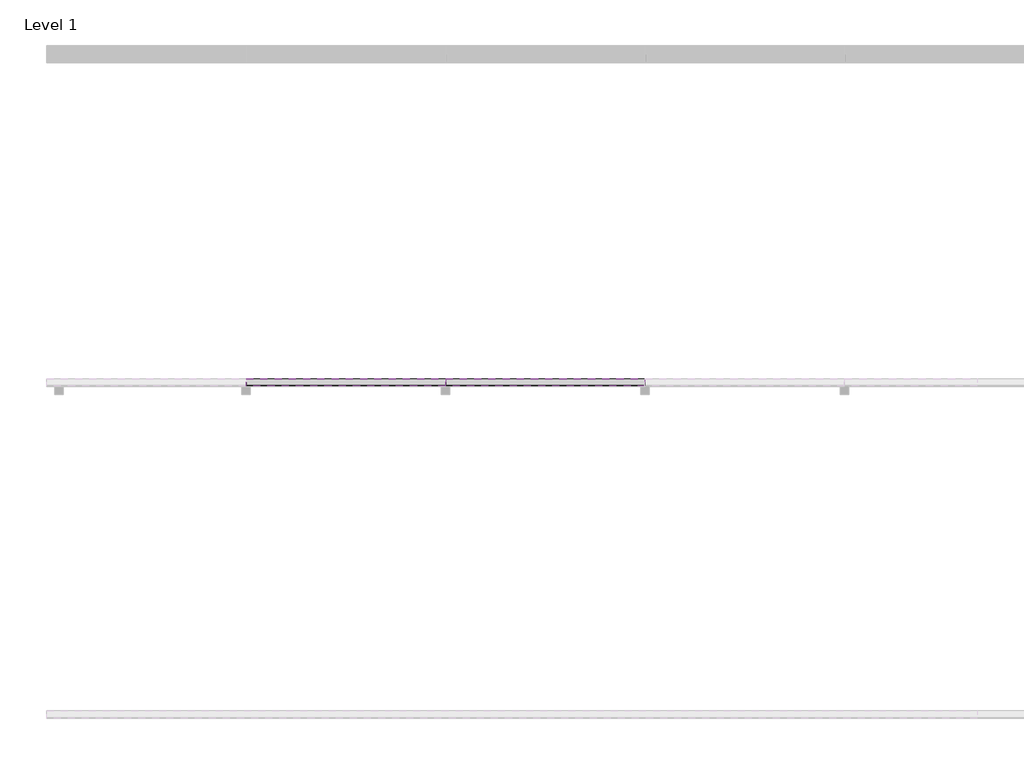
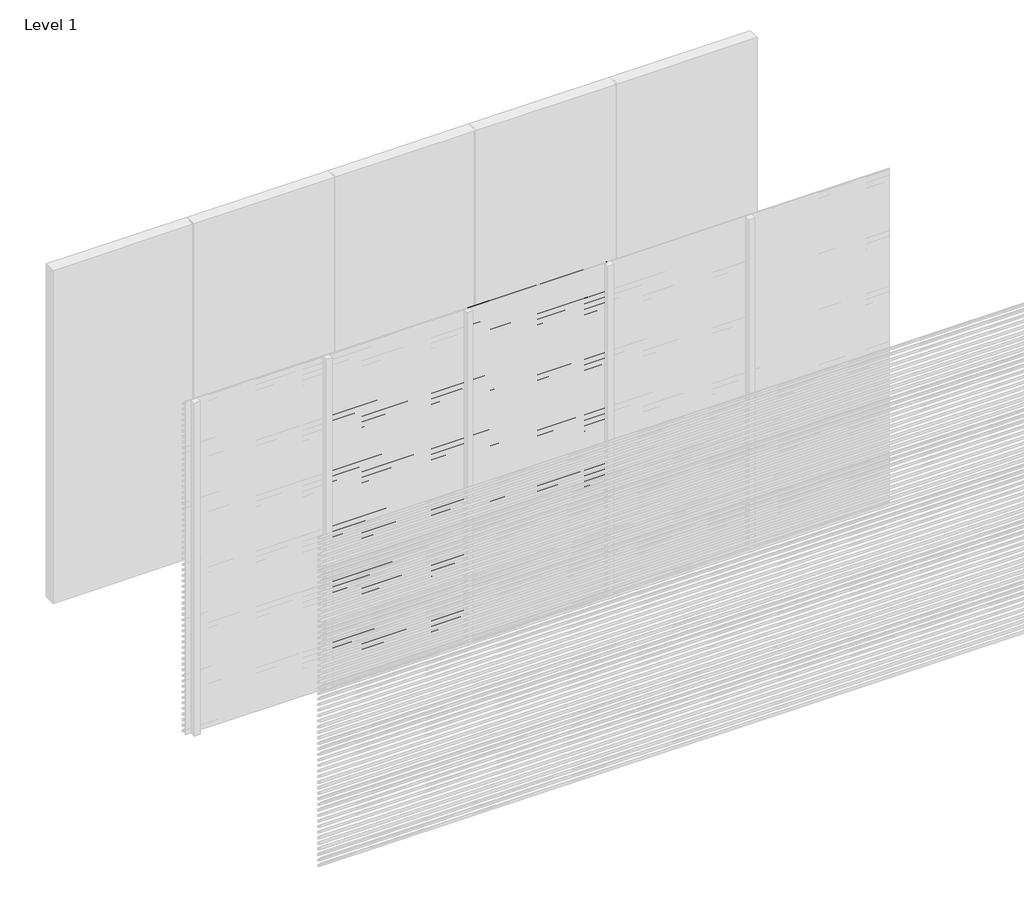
# One storey, part 7 of 16: 93 proxies.
"""IFC4 building model written with IfcOpenShell, lengths in millimetres."""

from ifc_helpers import new_model, si_unit, frame, origin, place, context, project, spatial, polyline, outline, extrude, element, save

model = new_model("IFC4")

# Units and contexts
model_context = context("Model", 3, world=origin())
ifc_project = project(units=[si_unit("LENGTHUNIT", "METRE", prefix="MILLI")], contexts=[model_context])

# Site, building, storey
site = spatial("IfcSite", under=ifc_project)
building = spatial("IfcBuilding", under=site)
storey = spatial("IfcBuildingStorey", under=building, Name="Level 1", Elevation=0.0)

# Proxies
placement = place(None, origin())
element("IfcBuildingElementProxy", 1, Name="Wall Sweeps", at=placement, inside=storey, context=model_context, shape_type="SweptSolid", body=[
    extrude(outline(polyline([(-11995.0, 2500.0), (-11995.0, 2489.6352854), (-11954.0, 2465.0), (-11954.0, 2450.0), (-11997.0, 2475.8370066), (-11997.0, 2500.0), (-11995.0, 2500.0)])), frame((1200.0, 0.0, 0.0), z_axis=(1.0, 0.0, 0.0), x_axis=(0.0, 1.0, 0.0)), (0.0, 0.0, 1.0), 1200.0),
])
element("IfcBuildingElementProxy", 2, Name="Wall Sweeps", at=placement, inside=storey, context=model_context, shape_type="SweptSolid", body=[
    extrude(outline(polyline([(-11995.0, 2450.0), (-11995.0, 2439.6352854), (-11954.0, 2415.0), (-11954.0, 2400.0), (-11997.0, 2425.8370066), (-11997.0, 2450.0), (-11995.0, 2450.0)])), frame((1200.0, 0.0, 0.0), z_axis=(1.0, 0.0, 0.0), x_axis=(0.0, 1.0, 0.0)), (0.0, 0.0, 1.0), 1200.0),
])
element("IfcBuildingElementProxy", 3, Name="Wall Sweeps", at=placement, inside=storey, context=model_context, shape_type="SweptSolid", body=[
    extrude(outline(polyline([(-11995.0, 2400.0), (-11995.0, 2389.6352854), (-11954.0, 2365.0), (-11954.0, 2350.0), (-11997.0, 2375.8370066), (-11997.0, 2400.0), (-11995.0, 2400.0)])), frame((1200.0, 0.0, 0.0), z_axis=(1.0, 0.0, 0.0), x_axis=(0.0, 1.0, 0.0)), (0.0, 0.0, 1.0), 1200.0),
])
element("IfcBuildingElementProxy", 4, Name="Wall Sweeps", at=placement, inside=storey, context=model_context, shape_type="SweptSolid", body=[
    extrude(outline(polyline([(-11995.0, 2350.0), (-11995.0, 2339.6352854), (-11954.0, 2315.0), (-11954.0, 2300.0), (-11997.0, 2325.8370066), (-11997.0, 2350.0), (-11995.0, 2350.0)])), frame((1200.0, 0.0, 0.0), z_axis=(1.0, 0.0, 0.0), x_axis=(0.0, 1.0, 0.0)), (0.0, 0.0, 1.0), 1200.0),
])
element("IfcBuildingElementProxy", 5, Name="Wall Sweeps", at=placement, inside=storey, context=model_context, shape_type="SweptSolid", body=[
    extrude(outline(polyline([(-11995.0, 2300.0), (-11995.0, 2289.6352854), (-11954.0, 2265.0), (-11954.0, 2250.0), (-11997.0, 2275.8370066), (-11997.0, 2300.0), (-11995.0, 2300.0)])), frame((1200.0, 0.0, 0.0), z_axis=(1.0, 0.0, 0.0), x_axis=(0.0, 1.0, 0.0)), (0.0, 0.0, 1.0), 1200.0),
])
element("IfcBuildingElementProxy", 6, Name="Wall Sweeps", at=placement, inside=storey, context=model_context, shape_type="SweptSolid", body=[
    extrude(outline(polyline([(-11995.0, 2250.0), (-11995.0, 2239.6352854), (-11954.0, 2215.0), (-11954.0, 2200.0), (-11997.0, 2225.8370066), (-11997.0, 2250.0), (-11995.0, 2250.0)])), frame((1200.0, 0.0, 0.0), z_axis=(1.0, 0.0, 0.0), x_axis=(0.0, 1.0, 0.0)), (0.0, 0.0, 1.0), 1200.0),
])
element("IfcBuildingElementProxy", 7, Name="Wall Sweeps", at=placement, inside=storey, context=model_context, shape_type="SweptSolid", body=[
    extrude(outline(polyline([(-11995.0, 2200.0), (-11995.0, 2189.6352854), (-11954.0, 2165.0), (-11954.0, 2150.0), (-11997.0, 2175.8370066), (-11997.0, 2200.0), (-11995.0, 2200.0)])), frame((1200.0, 0.0, 0.0), z_axis=(1.0, 0.0, 0.0), x_axis=(0.0, 1.0, 0.0)), (0.0, 0.0, 1.0), 1200.0),
])
element("IfcBuildingElementProxy", 8, Name="Wall Sweeps", at=placement, inside=storey, context=model_context, shape_type="SweptSolid", body=[
    extrude(outline(polyline([(-11995.0, 2150.0), (-11995.0, 2139.6352854), (-11954.0, 2115.0), (-11954.0, 2100.0), (-11997.0, 2125.8370066), (-11997.0, 2150.0), (-11995.0, 2150.0)])), frame((1200.0, 0.0, 0.0), z_axis=(1.0, 0.0, 0.0), x_axis=(0.0, 1.0, 0.0)), (0.0, 0.0, 1.0), 1200.0),
])
element("IfcBuildingElementProxy", 9, Name="Wall Sweeps", at=placement, inside=storey, context=model_context, shape_type="SweptSolid", body=[
    extrude(outline(polyline([(-11995.0, 2100.0), (-11995.0, 2089.6352854), (-11954.0, 2065.0), (-11954.0, 2050.0), (-11997.0, 2075.8370066), (-11997.0, 2100.0), (-11995.0, 2100.0)])), frame((1200.0, 0.0, 0.0), z_axis=(1.0, 0.0, 0.0), x_axis=(0.0, 1.0, 0.0)), (0.0, 0.0, 1.0), 1200.0),
])
element("IfcBuildingElementProxy", 10, Name="Wall Sweeps", at=placement, inside=storey, context=model_context, shape_type="SweptSolid", body=[
    extrude(outline(polyline([(-11995.0, 2050.0), (-11995.0, 2039.6352854), (-11954.0, 2015.0), (-11954.0, 2000.0), (-11997.0, 2025.8370066), (-11997.0, 2050.0), (-11995.0, 2050.0)])), frame((1200.0, 0.0, 0.0), z_axis=(1.0, 0.0, 0.0), x_axis=(0.0, 1.0, 0.0)), (0.0, 0.0, 1.0), 1200.0),
])
element("IfcBuildingElementProxy", 11, Name="Wall Sweeps", at=placement, inside=storey, context=model_context, shape_type="SweptSolid", body=[
    extrude(outline(polyline([(-11995.0, 2000.0), (-11995.0, 1989.6352854), (-11954.0, 1965.0), (-11954.0, 1950.0), (-11997.0, 1975.8370066), (-11997.0, 2000.0), (-11995.0, 2000.0)])), frame((1200.0, 0.0, 0.0), z_axis=(1.0, 0.0, 0.0), x_axis=(0.0, 1.0, 0.0)), (0.0, 0.0, 1.0), 1200.0),
])
element("IfcBuildingElementProxy", 12, Name="Wall Sweeps", at=placement, inside=storey, context=model_context, shape_type="SweptSolid", body=[
    extrude(outline(polyline([(-11995.0, 1950.0), (-11995.0, 1939.6352854), (-11954.0, 1915.0), (-11954.0, 1900.0), (-11997.0, 1925.8370066), (-11997.0, 1950.0), (-11995.0, 1950.0)])), frame((1200.0, 0.0, 0.0), z_axis=(1.0, 0.0, 0.0), x_axis=(0.0, 1.0, 0.0)), (0.0, 0.0, 1.0), 1200.0),
])
element("IfcBuildingElementProxy", 13, Name="Wall Sweeps", at=placement, inside=storey, context=model_context, shape_type="SweptSolid", body=[
    extrude(outline(polyline([(-11995.0, 1900.0), (-11995.0, 1889.6352854), (-11954.0, 1865.0), (-11954.0, 1850.0), (-11997.0, 1875.8370066), (-11997.0, 1900.0), (-11995.0, 1900.0)])), frame((1200.0, 0.0, 0.0), z_axis=(1.0, 0.0, 0.0), x_axis=(0.0, 1.0, 0.0)), (0.0, 0.0, 1.0), 1200.0),
])
element("IfcBuildingElementProxy", 14, Name="Wall Sweeps", at=placement, inside=storey, context=model_context, shape_type="SweptSolid", body=[
    extrude(outline(polyline([(-11995.0, 1850.0), (-11995.0, 1839.6352854), (-11954.0, 1815.0), (-11954.0, 1800.0), (-11997.0, 1825.8370066), (-11997.0, 1850.0), (-11995.0, 1850.0)])), frame((1200.0, 0.0, 0.0), z_axis=(1.0, 0.0, 0.0), x_axis=(0.0, 1.0, 0.0)), (0.0, 0.0, 1.0), 1200.0),
])
element("IfcBuildingElementProxy", 15, Name="Wall Sweeps", at=placement, inside=storey, context=model_context, shape_type="SweptSolid", body=[
    extrude(outline(polyline([(-11995.0, 1800.0), (-11995.0, 1789.6352854), (-11954.0, 1765.0), (-11954.0, 1750.0), (-11997.0, 1775.8370066), (-11997.0, 1800.0), (-11995.0, 1800.0)])), frame((1200.0, 0.0, 0.0), z_axis=(1.0, 0.0, 0.0), x_axis=(0.0, 1.0, 0.0)), (0.0, 0.0, 1.0), 1200.0),
])
element("IfcBuildingElementProxy", 16, Name="Wall Sweeps", at=placement, inside=storey, context=model_context, shape_type="SweptSolid", body=[
    extrude(outline(polyline([(-11995.0, 1750.0), (-11995.0, 1739.6352854), (-11954.0, 1715.0), (-11954.0, 1700.0), (-11997.0, 1725.8370066), (-11997.0, 1750.0), (-11995.0, 1750.0)])), frame((1200.0, 0.0, 0.0), z_axis=(1.0, 0.0, 0.0), x_axis=(0.0, 1.0, 0.0)), (0.0, 0.0, 1.0), 1200.0),
])
element("IfcBuildingElementProxy", 17, Name="Wall Sweeps", at=placement, inside=storey, context=model_context, shape_type="SweptSolid", body=[
    extrude(outline(polyline([(-11995.0, 1700.0), (-11995.0, 1689.6352854), (-11954.0, 1665.0), (-11954.0, 1650.0), (-11997.0, 1675.8370066), (-11997.0, 1700.0), (-11995.0, 1700.0)])), frame((1200.0, 0.0, 0.0), z_axis=(1.0, 0.0, 0.0), x_axis=(0.0, 1.0, 0.0)), (0.0, 0.0, 1.0), 1200.0),
])
element("IfcBuildingElementProxy", 18, Name="Wall Sweeps", at=placement, inside=storey, context=model_context, shape_type="SweptSolid", body=[
    extrude(outline(polyline([(-11995.0, 1650.0), (-11995.0, 1639.6352854), (-11954.0, 1615.0), (-11954.0, 1600.0), (-11997.0, 1625.8370066), (-11997.0, 1650.0), (-11995.0, 1650.0)])), frame((1200.0, 0.0, 0.0), z_axis=(1.0, 0.0, 0.0), x_axis=(0.0, 1.0, 0.0)), (0.0, 0.0, 1.0), 1200.0),
])
element("IfcBuildingElementProxy", 19, Name="Wall Sweeps", at=placement, inside=storey, context=model_context, shape_type="SweptSolid", body=[
    extrude(outline(polyline([(-11995.0, 1600.0), (-11995.0, 1589.6352854), (-11954.0, 1565.0), (-11954.0, 1550.0), (-11997.0, 1575.8370066), (-11997.0, 1600.0), (-11995.0, 1600.0)])), frame((1200.0, 0.0, 0.0), z_axis=(1.0, 0.0, 0.0), x_axis=(0.0, 1.0, 0.0)), (0.0, 0.0, 1.0), 1200.0),
])
element("IfcBuildingElementProxy", 20, Name="Wall Sweeps", at=placement, inside=storey, context=model_context, shape_type="SweptSolid", body=[
    extrude(outline(polyline([(-11995.0, 1550.0), (-11995.0, 1539.6352854), (-11954.0, 1515.0), (-11954.0, 1500.0), (-11997.0, 1525.8370066), (-11997.0, 1550.0), (-11995.0, 1550.0)])), frame((1200.0, 0.0, 0.0), z_axis=(1.0, 0.0, 0.0), x_axis=(0.0, 1.0, 0.0)), (0.0, 0.0, 1.0), 1200.0),
])
element("IfcBuildingElementProxy", 21, Name="Wall Sweeps", at=placement, inside=storey, context=model_context, shape_type="SweptSolid", body=[
    extrude(outline(polyline([(-11995.0, 1500.0), (-11995.0, 1489.6352854), (-11954.0, 1465.0), (-11954.0, 1450.0), (-11997.0, 1475.8370066), (-11997.0, 1500.0), (-11995.0, 1500.0)])), frame((1200.0, 0.0, 0.0), z_axis=(1.0, 0.0, 0.0), x_axis=(0.0, 1.0, 0.0)), (0.0, 0.0, 1.0), 1200.0),
])
element("IfcBuildingElementProxy", 22, Name="Wall Sweeps", at=placement, inside=storey, context=model_context, shape_type="SweptSolid", body=[
    extrude(outline(polyline([(-11995.0, 1450.0), (-11995.0, 1439.6352854), (-11954.0, 1415.0), (-11954.0, 1400.0), (-11997.0, 1425.8370066), (-11997.0, 1450.0), (-11995.0, 1450.0)])), frame((1200.0, 0.0, 0.0), z_axis=(1.0, 0.0, 0.0), x_axis=(0.0, 1.0, 0.0)), (0.0, 0.0, 1.0), 1200.0),
])
element("IfcBuildingElementProxy", 23, Name="Wall Sweeps", at=placement, inside=storey, context=model_context, shape_type="SweptSolid", body=[
    extrude(outline(polyline([(-11995.0, 1400.0), (-11995.0, 1389.6352854), (-11954.0, 1365.0), (-11954.0, 1350.0), (-11997.0, 1375.8370066), (-11997.0, 1400.0), (-11995.0, 1400.0)])), frame((1200.0, 0.0, 0.0), z_axis=(1.0, 0.0, 0.0), x_axis=(0.0, 1.0, 0.0)), (0.0, 0.0, 1.0), 1200.0),
])
element("IfcBuildingElementProxy", 24, Name="Wall Sweeps", at=placement, inside=storey, context=model_context, shape_type="SweptSolid", body=[
    extrude(outline(polyline([(-11995.0, 1350.0), (-11995.0, 1339.6352854), (-11954.0, 1315.0), (-11954.0, 1300.0), (-11997.0, 1325.8370066), (-11997.0, 1350.0), (-11995.0, 1350.0)])), frame((1200.0, 0.0, 0.0), z_axis=(1.0, 0.0, 0.0), x_axis=(0.0, 1.0, 0.0)), (0.0, 0.0, 1.0), 1200.0),
])
element("IfcBuildingElementProxy", 25, Name="Wall Sweeps", at=placement, inside=storey, context=model_context, shape_type="SweptSolid", body=[
    extrude(outline(polyline([(-11995.0, 1300.0), (-11995.0, 1289.6352854), (-11954.0, 1265.0), (-11954.0, 1250.0), (-11997.0, 1275.8370066), (-11997.0, 1300.0), (-11995.0, 1300.0)])), frame((1200.0, 0.0, 0.0), z_axis=(1.0, 0.0, 0.0), x_axis=(0.0, 1.0, 0.0)), (0.0, 0.0, 1.0), 1200.0),
])
element("IfcBuildingElementProxy", 26, Name="Wall Sweeps", at=placement, inside=storey, context=model_context, shape_type="SweptSolid", body=[
    extrude(outline(polyline([(-11995.0, 1250.0), (-11995.0, 1239.6352854), (-11954.0, 1215.0), (-11954.0, 1200.0), (-11997.0, 1225.8370066), (-11997.0, 1250.0), (-11995.0, 1250.0)])), frame((1200.0, 0.0, 0.0), z_axis=(1.0, 0.0, 0.0), x_axis=(0.0, 1.0, 0.0)), (0.0, 0.0, 1.0), 1200.0),
])
element("IfcBuildingElementProxy", 27, Name="Wall Sweeps", at=placement, inside=storey, context=model_context, shape_type="SweptSolid", body=[
    extrude(outline(polyline([(-11995.0, 1200.0), (-11995.0, 1189.6352854), (-11954.0, 1165.0), (-11954.0, 1150.0), (-11997.0, 1175.8370066), (-11997.0, 1200.0), (-11995.0, 1200.0)])), frame((1200.0, 0.0, 0.0), z_axis=(1.0, 0.0, 0.0), x_axis=(0.0, 1.0, 0.0)), (0.0, 0.0, 1.0), 1200.0),
])
element("IfcBuildingElementProxy", 28, Name="Wall Sweeps", at=placement, inside=storey, context=model_context, shape_type="SweptSolid", body=[
    extrude(outline(polyline([(-11995.0, 1150.0), (-11995.0, 1139.6352854), (-11954.0, 1115.0), (-11954.0, 1100.0), (-11997.0, 1125.8370066), (-11997.0, 1150.0), (-11995.0, 1150.0)])), frame((1200.0, 0.0, 0.0), z_axis=(1.0, 0.0, 0.0), x_axis=(0.0, 1.0, 0.0)), (0.0, 0.0, 1.0), 1200.0),
])
element("IfcBuildingElementProxy", 29, Name="Wall Sweeps", at=placement, inside=storey, context=model_context, shape_type="SweptSolid", body=[
    extrude(outline(polyline([(-11995.0, 1100.0), (-11995.0, 1089.6352854), (-11954.0, 1065.0), (-11954.0, 1050.0), (-11997.0, 1075.8370066), (-11997.0, 1100.0), (-11995.0, 1100.0)])), frame((1200.0, 0.0, 0.0), z_axis=(1.0, 0.0, 0.0), x_axis=(0.0, 1.0, 0.0)), (0.0, 0.0, 1.0), 1200.0),
])
element("IfcBuildingElementProxy", 30, Name="Wall Sweeps", at=placement, inside=storey, context=model_context, shape_type="SweptSolid", body=[
    extrude(outline(polyline([(-11995.0, 1050.0), (-11995.0, 1039.6352854), (-11954.0, 1015.0), (-11954.0, 1000.0), (-11997.0, 1025.8370066), (-11997.0, 1050.0), (-11995.0, 1050.0)])), frame((1200.0, 0.0, 0.0), z_axis=(1.0, 0.0, 0.0), x_axis=(0.0, 1.0, 0.0)), (0.0, 0.0, 1.0), 1200.0),
])
element("IfcBuildingElementProxy", 31, Name="Wall Sweeps", at=placement, inside=storey, context=model_context, shape_type="SweptSolid", body=[
    extrude(outline(polyline([(-11995.0, 1000.0), (-11995.0, 989.6352854), (-11954.0, 965.0), (-11954.0, 950.0), (-11997.0, 975.8370066), (-11997.0, 1000.0), (-11995.0, 1000.0)])), frame((1200.0, 0.0, 0.0), z_axis=(1.0, 0.0, 0.0), x_axis=(0.0, 1.0, 0.0)), (0.0, 0.0, 1.0), 1200.0),
])
element("IfcBuildingElementProxy", 32, Name="Wall Sweeps", at=placement, inside=storey, context=model_context, shape_type="SweptSolid", body=[
    extrude(outline(polyline([(-11995.0, 950.0), (-11995.0, 939.6352854), (-11954.0, 915.0), (-11954.0, 900.0), (-11997.0, 925.8370066), (-11997.0, 950.0), (-11995.0, 950.0)])), frame((1200.0, 0.0, 0.0), z_axis=(1.0, 0.0, 0.0), x_axis=(0.0, 1.0, 0.0)), (0.0, 0.0, 1.0), 1200.0),
])
element("IfcBuildingElementProxy", 33, Name="Wall Sweeps", at=placement, inside=storey, context=model_context, shape_type="SweptSolid", body=[
    extrude(outline(polyline([(-11995.0, 900.0), (-11995.0, 889.6352854), (-11954.0, 865.0), (-11954.0, 850.0), (-11997.0, 875.8370066), (-11997.0, 900.0), (-11995.0, 900.0)])), frame((1200.0, 0.0, 0.0), z_axis=(1.0, 0.0, 0.0), x_axis=(0.0, 1.0, 0.0)), (0.0, 0.0, 1.0), 1200.0),
])
element("IfcBuildingElementProxy", 34, Name="Wall Sweeps", at=placement, inside=storey, context=model_context, shape_type="SweptSolid", body=[
    extrude(outline(polyline([(-11995.0, 850.0), (-11995.0, 839.6352854), (-11954.0, 815.0), (-11954.0, 800.0), (-11997.0, 825.8370066), (-11997.0, 850.0), (-11995.0, 850.0)])), frame((1200.0, 0.0, 0.0), z_axis=(1.0, 0.0, 0.0), x_axis=(0.0, 1.0, 0.0)), (0.0, 0.0, 1.0), 1200.0),
])
element("IfcBuildingElementProxy", 35, Name="Wall Sweeps", at=placement, inside=storey, context=model_context, shape_type="SweptSolid", body=[
    extrude(outline(polyline([(-11995.0, 800.0), (-11995.0, 789.6352854), (-11954.0, 765.0), (-11954.0, 750.0), (-11997.0, 775.8370066), (-11997.0, 800.0), (-11995.0, 800.0)])), frame((1200.0, 0.0, 0.0), z_axis=(1.0, 0.0, 0.0), x_axis=(0.0, 1.0, 0.0)), (0.0, 0.0, 1.0), 1200.0),
])
element("IfcBuildingElementProxy", 36, Name="Wall Sweeps", at=placement, inside=storey, context=model_context, shape_type="SweptSolid", body=[
    extrude(outline(polyline([(-11995.0, 750.0), (-11995.0, 739.6352854), (-11954.0, 715.0), (-11954.0, 700.0), (-11997.0, 725.8370066), (-11997.0, 750.0), (-11995.0, 750.0)])), frame((1200.0, 0.0, 0.0), z_axis=(1.0, 0.0, 0.0), x_axis=(0.0, 1.0, 0.0)), (0.0, 0.0, 1.0), 1200.0),
])
element("IfcBuildingElementProxy", 37, Name="Wall Sweeps", at=placement, inside=storey, context=model_context, shape_type="SweptSolid", body=[
    extrude(outline(polyline([(-11995.0, 700.0), (-11995.0, 689.6352854), (-11954.0, 665.0), (-11954.0, 650.0), (-11997.0, 675.8370066), (-11997.0, 700.0), (-11995.0, 700.0)])), frame((1200.0, 0.0, 0.0), z_axis=(1.0, 0.0, 0.0), x_axis=(0.0, 1.0, 0.0)), (0.0, 0.0, 1.0), 1200.0),
])
element("IfcBuildingElementProxy", 38, Name="Wall Sweeps", at=placement, inside=storey, context=model_context, shape_type="SweptSolid", body=[
    extrude(outline(polyline([(-11995.0, 650.0), (-11995.0, 639.6352854), (-11954.0, 615.0), (-11954.0, 600.0), (-11997.0, 625.8370066), (-11997.0, 650.0), (-11995.0, 650.0)])), frame((1200.0, 0.0, 0.0), z_axis=(1.0, 0.0, 0.0), x_axis=(0.0, 1.0, 0.0)), (0.0, 0.0, 1.0), 1200.0),
])
element("IfcBuildingElementProxy", 39, Name="Wall Sweeps", at=placement, inside=storey, context=model_context, shape_type="SweptSolid", body=[
    extrude(outline(polyline([(-11995.0, 600.0), (-11995.0, 589.6352854), (-11954.0, 565.0), (-11954.0, 550.0), (-11997.0, 575.8370066), (-11997.0, 600.0), (-11995.0, 600.0)])), frame((1200.0, 0.0, 0.0), z_axis=(1.0, 0.0, 0.0), x_axis=(0.0, 1.0, 0.0)), (0.0, 0.0, 1.0), 1200.0),
])
element("IfcBuildingElementProxy", 40, Name="Wall Sweeps", at=placement, inside=storey, context=model_context, shape_type="SweptSolid", body=[
    extrude(outline(polyline([(-11995.0, 550.0), (-11995.0, 539.6352854), (-11954.0, 515.0), (-11954.0, 500.0), (-11997.0, 525.8370066), (-11997.0, 550.0), (-11995.0, 550.0)])), frame((1200.0, 0.0, 0.0), z_axis=(1.0, 0.0, 0.0), x_axis=(0.0, 1.0, 0.0)), (0.0, 0.0, 1.0), 1200.0),
])
element("IfcBuildingElementProxy", 41, Name="Wall Sweeps", at=placement, inside=storey, context=model_context, shape_type="SweptSolid", body=[
    extrude(outline(polyline([(-11995.0, 500.0), (-11995.0, 489.6352854), (-11954.0, 465.0), (-11954.0, 450.0), (-11997.0, 475.8370066), (-11997.0, 500.0), (-11995.0, 500.0)])), frame((1200.0, 0.0, 0.0), z_axis=(1.0, 0.0, 0.0), x_axis=(0.0, 1.0, 0.0)), (0.0, 0.0, 1.0), 1200.0),
])
element("IfcBuildingElementProxy", 42, Name="Wall Sweeps", at=placement, inside=storey, context=model_context, shape_type="SweptSolid", body=[
    extrude(outline(polyline([(-11995.0, 450.0), (-11995.0, 439.6352854), (-11954.0, 415.0), (-11954.0, 400.0), (-11997.0, 425.8370066), (-11997.0, 450.0), (-11995.0, 450.0)])), frame((1200.0, 0.0, 0.0), z_axis=(1.0, 0.0, 0.0), x_axis=(0.0, 1.0, 0.0)), (0.0, 0.0, 1.0), 1200.0),
])
element("IfcBuildingElementProxy", 43, Name="Wall Sweeps", at=placement, inside=storey, context=model_context, shape_type="SweptSolid", body=[
    extrude(outline(polyline([(-11995.0, 400.0), (-11995.0, 389.6352854), (-11954.0, 365.0), (-11954.0, 350.0), (-11997.0, 375.8370066), (-11997.0, 400.0), (-11995.0, 400.0)])), frame((1200.0, 0.0, 0.0), z_axis=(1.0, 0.0, 0.0), x_axis=(0.0, 1.0, 0.0)), (0.0, 0.0, 1.0), 1200.0),
])
element("IfcBuildingElementProxy", 44, Name="Wall Sweeps", at=placement, inside=storey, context=model_context, shape_type="SweptSolid", body=[
    extrude(outline(polyline([(-11995.0, 350.0), (-11995.0, 339.6352854), (-11954.0, 315.0), (-11954.0, 300.0), (-11997.0, 325.8370066), (-11997.0, 350.0), (-11995.0, 350.0)])), frame((1200.0, 0.0, 0.0), z_axis=(1.0, 0.0, 0.0), x_axis=(0.0, 1.0, 0.0)), (0.0, 0.0, 1.0), 1200.0),
])
element("IfcBuildingElementProxy", 45, Name="Wall Sweeps", at=placement, inside=storey, context=model_context, shape_type="SweptSolid", body=[
    extrude(outline(polyline([(-11995.0, 300.0), (-11995.0, 289.6352854), (-11954.0, 265.0), (-11954.0, 250.0), (-11997.0, 275.8370066), (-11997.0, 300.0), (-11995.0, 300.0)])), frame((1200.0, 0.0, 0.0), z_axis=(1.0, 0.0, 0.0), x_axis=(0.0, 1.0, 0.0)), (0.0, 0.0, 1.0), 1200.0),
])
element("IfcBuildingElementProxy", 46, Name="Wall Sweeps", at=placement, inside=storey, context=model_context, shape_type="SweptSolid", body=[
    extrude(outline(polyline([(-11995.0, 250.0), (-11995.0, 239.6352854), (-11954.0, 215.0), (-11954.0, 200.0), (-11997.0, 225.8370066), (-11997.0, 250.0), (-11995.0, 250.0)])), frame((1200.0, 0.0, 0.0), z_axis=(1.0, 0.0, 0.0), x_axis=(0.0, 1.0, 0.0)), (0.0, 0.0, 1.0), 1200.0),
])
element("IfcBuildingElementProxy", 47, Name="Wall Sweeps", at=placement, inside=storey, context=model_context, shape_type="SweptSolid", body=[
    extrude(outline(polyline([(-11995.0, 200.0), (-11995.0, 189.6352854), (-11954.0, 165.0), (-11954.0, 150.0), (-11997.0, 175.8370066), (-11997.0, 200.0), (-11995.0, 200.0)])), frame((1200.0, 0.0, 0.0), z_axis=(1.0, 0.0, 0.0), x_axis=(0.0, 1.0, 0.0)), (0.0, 0.0, 1.0), 1200.0),
])
element("IfcBuildingElementProxy", 48, Name="Wall Sweeps", at=placement, inside=storey, context=model_context, shape_type="SweptSolid", body=[
    extrude(outline(polyline([(-11995.0, 150.0), (-11995.0, 139.6352854), (-11954.0, 115.0), (-11954.0, 100.0), (-11997.0, 125.8370066), (-11997.0, 150.0), (-11995.0, 150.0)])), frame((1200.0, 0.0, 0.0), z_axis=(1.0, 0.0, 0.0), x_axis=(0.0, 1.0, 0.0)), (0.0, 0.0, 1.0), 1200.0),
])
element("IfcBuildingElementProxy", 49, Name="Wall Sweeps", at=placement, inside=storey, context=model_context, shape_type="SweptSolid", body=[
    extrude(outline(polyline([(-11995.0, 100.0), (-11995.0, 89.6352854), (-11954.0, 65.0), (-11954.0, 50.0), (-11997.0, 75.8370066), (-11997.0, 100.0), (-11995.0, 100.0)])), frame((1200.0, 0.0, 0.0), z_axis=(1.0, 0.0, 0.0), x_axis=(0.0, 1.0, 0.0)), (0.0, 0.0, 1.0), 1200.0),
])
element("IfcBuildingElementProxy", 50, Name="Wall Sweeps", at=placement, inside=storey, context=model_context, shape_type="SweptSolid", body=[
    extrude(outline(polyline([(-11995.0, 50.0), (-11995.0, 39.6352854), (-11954.0, 15.0), (-11954.0, 0.0), (-11997.0, 25.8370066), (-11997.0, 50.0), (-11995.0, 50.0)])), frame((1200.0, 0.0, 0.0), z_axis=(1.0, 0.0, 0.0), x_axis=(0.0, 1.0, 0.0)), (0.0, 0.0, 1.0), 1200.0),
])
element("IfcBuildingElementProxy", 51, Name="Wall Sweeps", at=placement, inside=storey, context=model_context, shape_type="SweptSolid", body=[
    extrude(outline(polyline([(-11995.0, 3000.0), (-11995.0, 2989.6352854), (-11954.0, 2965.0), (-11954.0, 2950.0), (-11997.0, 2975.8370066), (-11997.0, 3000.0), (-11995.0, 3000.0)])), frame((2400.0, 0.0, 0.0), z_axis=(1.0, 0.0, 0.0), x_axis=(0.0, 1.0, 0.0)), (0.0, 0.0, 1.0), 1200.0),
])
element("IfcBuildingElementProxy", 52, Name="Wall Sweeps", at=placement, inside=storey, context=model_context, shape_type="SweptSolid", body=[
    extrude(outline(polyline([(-11995.0, 2950.0), (-11995.0, 2939.6352854), (-11954.0, 2915.0), (-11954.0, 2900.0), (-11997.0, 2925.8370066), (-11997.0, 2950.0), (-11995.0, 2950.0)])), frame((2400.0, 0.0, 0.0), z_axis=(1.0, 0.0, 0.0), x_axis=(0.0, 1.0, 0.0)), (0.0, 0.0, 1.0), 1200.0),
])
element("IfcBuildingElementProxy", 53, Name="Wall Sweeps", at=placement, inside=storey, context=model_context, shape_type="SweptSolid", body=[
    extrude(outline(polyline([(-11995.0, 2900.0), (-11995.0, 2889.6352854), (-11954.0, 2865.0), (-11954.0, 2850.0), (-11997.0, 2875.8370066), (-11997.0, 2900.0), (-11995.0, 2900.0)])), frame((2400.0, 0.0, 0.0), z_axis=(1.0, 0.0, 0.0), x_axis=(0.0, 1.0, 0.0)), (0.0, 0.0, 1.0), 1200.0),
])
element("IfcBuildingElementProxy", 54, Name="Wall Sweeps", at=placement, inside=storey, context=model_context, shape_type="SweptSolid", body=[
    extrude(outline(polyline([(-11995.0, 2850.0), (-11995.0, 2839.6352854), (-11954.0, 2815.0), (-11954.0, 2800.0), (-11997.0, 2825.8370066), (-11997.0, 2850.0), (-11995.0, 2850.0)])), frame((2400.0, 0.0, 0.0), z_axis=(1.0, 0.0, 0.0), x_axis=(0.0, 1.0, 0.0)), (0.0, 0.0, 1.0), 1200.0),
])
element("IfcBuildingElementProxy", 55, Name="Wall Sweeps", at=placement, inside=storey, context=model_context, shape_type="SweptSolid", body=[
    extrude(outline(polyline([(-11995.0, 2800.0), (-11995.0, 2789.6352854), (-11954.0, 2765.0), (-11954.0, 2750.0), (-11997.0, 2775.8370066), (-11997.0, 2800.0), (-11995.0, 2800.0)])), frame((2400.0, 0.0, 0.0), z_axis=(1.0, 0.0, 0.0), x_axis=(0.0, 1.0, 0.0)), (0.0, 0.0, 1.0), 1200.0),
])
element("IfcBuildingElementProxy", 56, Name="Wall Sweeps", at=placement, inside=storey, context=model_context, shape_type="SweptSolid", body=[
    extrude(outline(polyline([(-11995.0, 2750.0), (-11995.0, 2739.6352854), (-11954.0, 2715.0), (-11954.0, 2700.0), (-11997.0, 2725.8370066), (-11997.0, 2750.0), (-11995.0, 2750.0)])), frame((2400.0, 0.0, 0.0), z_axis=(1.0, 0.0, 0.0), x_axis=(0.0, 1.0, 0.0)), (0.0, 0.0, 1.0), 1200.0),
])
element("IfcBuildingElementProxy", 57, Name="Wall Sweeps", at=placement, inside=storey, context=model_context, shape_type="SweptSolid", body=[
    extrude(outline(polyline([(-11995.0, 2700.0), (-11995.0, 2689.6352854), (-11954.0, 2665.0), (-11954.0, 2650.0), (-11997.0, 2675.8370066), (-11997.0, 2700.0), (-11995.0, 2700.0)])), frame((2400.0, 0.0, 0.0), z_axis=(1.0, 0.0, 0.0), x_axis=(0.0, 1.0, 0.0)), (0.0, 0.0, 1.0), 1200.0),
])
element("IfcBuildingElementProxy", 58, Name="Wall Sweeps", at=placement, inside=storey, context=model_context, shape_type="SweptSolid", body=[
    extrude(outline(polyline([(-11995.0, 2650.0), (-11995.0, 2639.6352854), (-11954.0, 2615.0), (-11954.0, 2600.0), (-11997.0, 2625.8370066), (-11997.0, 2650.0), (-11995.0, 2650.0)])), frame((2400.0, 0.0, 0.0), z_axis=(1.0, 0.0, 0.0), x_axis=(0.0, 1.0, 0.0)), (0.0, 0.0, 1.0), 1200.0),
])
element("IfcBuildingElementProxy", 59, Name="Wall Sweeps", at=placement, inside=storey, context=model_context, shape_type="SweptSolid", body=[
    extrude(outline(polyline([(-11995.0, 2600.0), (-11995.0, 2589.6352854), (-11954.0, 2565.0), (-11954.0, 2550.0), (-11997.0, 2575.8370066), (-11997.0, 2600.0), (-11995.0, 2600.0)])), frame((2400.0, 0.0, 0.0), z_axis=(1.0, 0.0, 0.0), x_axis=(0.0, 1.0, 0.0)), (0.0, 0.0, 1.0), 1200.0),
])
element("IfcBuildingElementProxy", 60, Name="Wall Sweeps", at=placement, inside=storey, context=model_context, shape_type="SweptSolid", body=[
    extrude(outline(polyline([(-11995.0, 2550.0), (-11995.0, 2539.6352854), (-11954.0, 2515.0), (-11954.0, 2500.0), (-11997.0, 2525.8370066), (-11997.0, 2550.0), (-11995.0, 2550.0)])), frame((2400.0, 0.0, 0.0), z_axis=(1.0, 0.0, 0.0), x_axis=(0.0, 1.0, 0.0)), (0.0, 0.0, 1.0), 1200.0),
])
element("IfcBuildingElementProxy", 61, Name="Wall Sweeps", at=placement, inside=storey, context=model_context, shape_type="SweptSolid", body=[
    extrude(outline(polyline([(-11995.0, 2500.0), (-11995.0, 2489.6352854), (-11954.0, 2465.0), (-11954.0, 2450.0), (-11997.0, 2475.8370066), (-11997.0, 2500.0), (-11995.0, 2500.0)])), frame((2400.0, 0.0, 0.0), z_axis=(1.0, 0.0, 0.0), x_axis=(0.0, 1.0, 0.0)), (0.0, 0.0, 1.0), 1200.0),
])
element("IfcBuildingElementProxy", 62, Name="Wall Sweeps", at=placement, inside=storey, context=model_context, shape_type="SweptSolid", body=[
    extrude(outline(polyline([(-11995.0, 2450.0), (-11995.0, 2439.6352854), (-11954.0, 2415.0), (-11954.0, 2400.0), (-11997.0, 2425.8370066), (-11997.0, 2450.0), (-11995.0, 2450.0)])), frame((2400.0, 0.0, 0.0), z_axis=(1.0, 0.0, 0.0), x_axis=(0.0, 1.0, 0.0)), (0.0, 0.0, 1.0), 1200.0),
])
element("IfcBuildingElementProxy", 63, Name="Wall Sweeps", at=placement, inside=storey, context=model_context, shape_type="SweptSolid", body=[
    extrude(outline(polyline([(-11995.0, 2400.0), (-11995.0, 2389.6352854), (-11954.0, 2365.0), (-11954.0, 2350.0), (-11997.0, 2375.8370066), (-11997.0, 2400.0), (-11995.0, 2400.0)])), frame((2400.0, 0.0, 0.0), z_axis=(1.0, 0.0, 0.0), x_axis=(0.0, 1.0, 0.0)), (0.0, 0.0, 1.0), 1200.0),
])
element("IfcBuildingElementProxy", 64, Name="Wall Sweeps", at=placement, inside=storey, context=model_context, shape_type="SweptSolid", body=[
    extrude(outline(polyline([(-11995.0, 2350.0), (-11995.0, 2339.6352854), (-11954.0, 2315.0), (-11954.0, 2300.0), (-11997.0, 2325.8370066), (-11997.0, 2350.0), (-11995.0, 2350.0)])), frame((2400.0, 0.0, 0.0), z_axis=(1.0, 0.0, 0.0), x_axis=(0.0, 1.0, 0.0)), (0.0, 0.0, 1.0), 1200.0),
])
element("IfcBuildingElementProxy", 65, Name="Wall Sweeps", at=placement, inside=storey, context=model_context, shape_type="SweptSolid", body=[
    extrude(outline(polyline([(-11995.0, 2300.0), (-11995.0, 2289.6352854), (-11954.0, 2265.0), (-11954.0, 2250.0), (-11997.0, 2275.8370066), (-11997.0, 2300.0), (-11995.0, 2300.0)])), frame((2400.0, 0.0, 0.0), z_axis=(1.0, 0.0, 0.0), x_axis=(0.0, 1.0, 0.0)), (0.0, 0.0, 1.0), 1200.0),
])
element("IfcBuildingElementProxy", 66, Name="Wall Sweeps", at=placement, inside=storey, context=model_context, shape_type="SweptSolid", body=[
    extrude(outline(polyline([(-11995.0, 2250.0), (-11995.0, 2239.6352854), (-11954.0, 2215.0), (-11954.0, 2200.0), (-11997.0, 2225.8370066), (-11997.0, 2250.0), (-11995.0, 2250.0)])), frame((2400.0, 0.0, 0.0), z_axis=(1.0, 0.0, 0.0), x_axis=(0.0, 1.0, 0.0)), (0.0, 0.0, 1.0), 1200.0),
])
element("IfcBuildingElementProxy", 67, Name="Wall Sweeps", at=placement, inside=storey, context=model_context, shape_type="SweptSolid", body=[
    extrude(outline(polyline([(-11995.0, 2200.0), (-11995.0, 2189.6352854), (-11954.0, 2165.0), (-11954.0, 2150.0), (-11997.0, 2175.8370066), (-11997.0, 2200.0), (-11995.0, 2200.0)])), frame((2400.0, 0.0, 0.0), z_axis=(1.0, 0.0, 0.0), x_axis=(0.0, 1.0, 0.0)), (0.0, 0.0, 1.0), 1200.0),
])
element("IfcBuildingElementProxy", 68, Name="Wall Sweeps", at=placement, inside=storey, context=model_context, shape_type="SweptSolid", body=[
    extrude(outline(polyline([(-11995.0, 2150.0), (-11995.0, 2139.6352854), (-11954.0, 2115.0), (-11954.0, 2100.0), (-11997.0, 2125.8370066), (-11997.0, 2150.0), (-11995.0, 2150.0)])), frame((2400.0, 0.0, 0.0), z_axis=(1.0, 0.0, 0.0), x_axis=(0.0, 1.0, 0.0)), (0.0, 0.0, 1.0), 1200.0),
])
element("IfcBuildingElementProxy", 69, Name="Wall Sweeps", at=placement, inside=storey, context=model_context, shape_type="SweptSolid", body=[
    extrude(outline(polyline([(-11995.0, 2100.0), (-11995.0, 2089.6352854), (-11954.0, 2065.0), (-11954.0, 2050.0), (-11997.0, 2075.8370066), (-11997.0, 2100.0), (-11995.0, 2100.0)])), frame((2400.0, 0.0, 0.0), z_axis=(1.0, 0.0, 0.0), x_axis=(0.0, 1.0, 0.0)), (0.0, 0.0, 1.0), 1200.0),
])
element("IfcBuildingElementProxy", 70, Name="Wall Sweeps", at=placement, inside=storey, context=model_context, shape_type="SweptSolid", body=[
    extrude(outline(polyline([(-11995.0, 2050.0), (-11995.0, 2039.6352854), (-11954.0, 2015.0), (-11954.0, 2000.0), (-11997.0, 2025.8370066), (-11997.0, 2050.0), (-11995.0, 2050.0)])), frame((2400.0, 0.0, 0.0), z_axis=(1.0, 0.0, 0.0), x_axis=(0.0, 1.0, 0.0)), (0.0, 0.0, 1.0), 1200.0),
])
element("IfcBuildingElementProxy", 71, Name="Wall Sweeps", at=placement, inside=storey, context=model_context, shape_type="SweptSolid", body=[
    extrude(outline(polyline([(-11995.0, 2000.0), (-11995.0, 1989.6352854), (-11954.0, 1965.0), (-11954.0, 1950.0), (-11997.0, 1975.8370066), (-11997.0, 2000.0), (-11995.0, 2000.0)])), frame((2400.0, 0.0, 0.0), z_axis=(1.0, 0.0, 0.0), x_axis=(0.0, 1.0, 0.0)), (0.0, 0.0, 1.0), 1200.0),
])
element("IfcBuildingElementProxy", 72, Name="Wall Sweeps", at=placement, inside=storey, context=model_context, shape_type="SweptSolid", body=[
    extrude(outline(polyline([(-11995.0, 1950.0), (-11995.0, 1939.6352854), (-11954.0, 1915.0), (-11954.0, 1900.0), (-11997.0, 1925.8370066), (-11997.0, 1950.0), (-11995.0, 1950.0)])), frame((2400.0, 0.0, 0.0), z_axis=(1.0, 0.0, 0.0), x_axis=(0.0, 1.0, 0.0)), (0.0, 0.0, 1.0), 1200.0),
])
element("IfcBuildingElementProxy", 73, Name="Wall Sweeps", at=placement, inside=storey, context=model_context, shape_type="SweptSolid", body=[
    extrude(outline(polyline([(-11995.0, 1900.0), (-11995.0, 1889.6352854), (-11954.0, 1865.0), (-11954.0, 1850.0), (-11997.0, 1875.8370066), (-11997.0, 1900.0), (-11995.0, 1900.0)])), frame((2400.0, 0.0, 0.0), z_axis=(1.0, 0.0, 0.0), x_axis=(0.0, 1.0, 0.0)), (0.0, 0.0, 1.0), 1200.0),
])
element("IfcBuildingElementProxy", 74, Name="Wall Sweeps", at=placement, inside=storey, context=model_context, shape_type="SweptSolid", body=[
    extrude(outline(polyline([(-11995.0, 1850.0), (-11995.0, 1839.6352854), (-11954.0, 1815.0), (-11954.0, 1800.0), (-11997.0, 1825.8370066), (-11997.0, 1850.0), (-11995.0, 1850.0)])), frame((2400.0, 0.0, 0.0), z_axis=(1.0, 0.0, 0.0), x_axis=(0.0, 1.0, 0.0)), (0.0, 0.0, 1.0), 1200.0),
])
element("IfcBuildingElementProxy", 75, Name="Wall Sweeps", at=placement, inside=storey, context=model_context, shape_type="SweptSolid", body=[
    extrude(outline(polyline([(-11995.0, 1800.0), (-11995.0, 1789.6352854), (-11954.0, 1765.0), (-11954.0, 1750.0), (-11997.0, 1775.8370066), (-11997.0, 1800.0), (-11995.0, 1800.0)])), frame((2400.0, 0.0, 0.0), z_axis=(1.0, 0.0, 0.0), x_axis=(0.0, 1.0, 0.0)), (0.0, 0.0, 1.0), 1200.0),
])
element("IfcBuildingElementProxy", 76, Name="Wall Sweeps", at=placement, inside=storey, context=model_context, shape_type="SweptSolid", body=[
    extrude(outline(polyline([(-11995.0, 1750.0), (-11995.0, 1739.6352854), (-11954.0, 1715.0), (-11954.0, 1700.0), (-11997.0, 1725.8370066), (-11997.0, 1750.0), (-11995.0, 1750.0)])), frame((2400.0, 0.0, 0.0), z_axis=(1.0, 0.0, 0.0), x_axis=(0.0, 1.0, 0.0)), (0.0, 0.0, 1.0), 1200.0),
])
element("IfcBuildingElementProxy", 77, Name="Wall Sweeps", at=placement, inside=storey, context=model_context, shape_type="SweptSolid", body=[
    extrude(outline(polyline([(-11995.0, 1700.0), (-11995.0, 1689.6352854), (-11954.0, 1665.0), (-11954.0, 1650.0), (-11997.0, 1675.8370066), (-11997.0, 1700.0), (-11995.0, 1700.0)])), frame((2400.0, 0.0, 0.0), z_axis=(1.0, 0.0, 0.0), x_axis=(0.0, 1.0, 0.0)), (0.0, 0.0, 1.0), 1200.0),
])
element("IfcBuildingElementProxy", 78, Name="Wall Sweeps", at=placement, inside=storey, context=model_context, shape_type="SweptSolid", body=[
    extrude(outline(polyline([(-11995.0, 1650.0), (-11995.0, 1639.6352854), (-11954.0, 1615.0), (-11954.0, 1600.0), (-11997.0, 1625.8370066), (-11997.0, 1650.0), (-11995.0, 1650.0)])), frame((2400.0, 0.0, 0.0), z_axis=(1.0, 0.0, 0.0), x_axis=(0.0, 1.0, 0.0)), (0.0, 0.0, 1.0), 1200.0),
])
element("IfcBuildingElementProxy", 79, Name="Wall Sweeps", at=placement, inside=storey, context=model_context, shape_type="SweptSolid", body=[
    extrude(outline(polyline([(-11995.0, 1600.0), (-11995.0, 1589.6352854), (-11954.0, 1565.0), (-11954.0, 1550.0), (-11997.0, 1575.8370066), (-11997.0, 1600.0), (-11995.0, 1600.0)])), frame((2400.0, 0.0, 0.0), z_axis=(1.0, 0.0, 0.0), x_axis=(0.0, 1.0, 0.0)), (0.0, 0.0, 1.0), 1200.0),
])
element("IfcBuildingElementProxy", 80, Name="Wall Sweeps", at=placement, inside=storey, context=model_context, shape_type="SweptSolid", body=[
    extrude(outline(polyline([(-11995.0, 1550.0), (-11995.0, 1539.6352854), (-11954.0, 1515.0), (-11954.0, 1500.0), (-11997.0, 1525.8370066), (-11997.0, 1550.0), (-11995.0, 1550.0)])), frame((2400.0, 0.0, 0.0), z_axis=(1.0, 0.0, 0.0), x_axis=(0.0, 1.0, 0.0)), (0.0, 0.0, 1.0), 1200.0),
])
element("IfcBuildingElementProxy", 81, Name="Wall Sweeps", at=placement, inside=storey, context=model_context, shape_type="SweptSolid", body=[
    extrude(outline(polyline([(-11995.0, 1500.0), (-11995.0, 1489.6352854), (-11954.0, 1465.0), (-11954.0, 1450.0), (-11997.0, 1475.8370066), (-11997.0, 1500.0), (-11995.0, 1500.0)])), frame((2400.0, 0.0, 0.0), z_axis=(1.0, 0.0, 0.0), x_axis=(0.0, 1.0, 0.0)), (0.0, 0.0, 1.0), 1200.0),
])
element("IfcBuildingElementProxy", 82, Name="Wall Sweeps", at=placement, inside=storey, context=model_context, shape_type="SweptSolid", body=[
    extrude(outline(polyline([(-11995.0, 1450.0), (-11995.0, 1439.6352854), (-11954.0, 1415.0), (-11954.0, 1400.0), (-11997.0, 1425.8370066), (-11997.0, 1450.0), (-11995.0, 1450.0)])), frame((2400.0, 0.0, 0.0), z_axis=(1.0, 0.0, 0.0), x_axis=(0.0, 1.0, 0.0)), (0.0, 0.0, 1.0), 1200.0),
])
element("IfcBuildingElementProxy", 83, Name="Wall Sweeps", at=placement, inside=storey, context=model_context, shape_type="SweptSolid", body=[
    extrude(outline(polyline([(-11995.0, 1400.0), (-11995.0, 1389.6352854), (-11954.0, 1365.0), (-11954.0, 1350.0), (-11997.0, 1375.8370066), (-11997.0, 1400.0), (-11995.0, 1400.0)])), frame((2400.0, 0.0, 0.0), z_axis=(1.0, 0.0, 0.0), x_axis=(0.0, 1.0, 0.0)), (0.0, 0.0, 1.0), 1200.0),
])
element("IfcBuildingElementProxy", 84, Name="Wall Sweeps", at=placement, inside=storey, context=model_context, shape_type="SweptSolid", body=[
    extrude(outline(polyline([(-11995.0, 1350.0), (-11995.0, 1339.6352854), (-11954.0, 1315.0), (-11954.0, 1300.0), (-11997.0, 1325.8370066), (-11997.0, 1350.0), (-11995.0, 1350.0)])), frame((2400.0, 0.0, 0.0), z_axis=(1.0, 0.0, 0.0), x_axis=(0.0, 1.0, 0.0)), (0.0, 0.0, 1.0), 1200.0),
])
element("IfcBuildingElementProxy", 85, Name="Wall Sweeps", at=placement, inside=storey, context=model_context, shape_type="SweptSolid", body=[
    extrude(outline(polyline([(-11995.0, 1300.0), (-11995.0, 1289.6352854), (-11954.0, 1265.0), (-11954.0, 1250.0), (-11997.0, 1275.8370066), (-11997.0, 1300.0), (-11995.0, 1300.0)])), frame((2400.0, 0.0, 0.0), z_axis=(1.0, 0.0, 0.0), x_axis=(0.0, 1.0, 0.0)), (0.0, 0.0, 1.0), 1200.0),
])
element("IfcBuildingElementProxy", 86, Name="Wall Sweeps", at=placement, inside=storey, context=model_context, shape_type="SweptSolid", body=[
    extrude(outline(polyline([(-11995.0, 1250.0), (-11995.0, 1239.6352854), (-11954.0, 1215.0), (-11954.0, 1200.0), (-11997.0, 1225.8370066), (-11997.0, 1250.0), (-11995.0, 1250.0)])), frame((2400.0, 0.0, 0.0), z_axis=(1.0, 0.0, 0.0), x_axis=(0.0, 1.0, 0.0)), (0.0, 0.0, 1.0), 1200.0),
])
element("IfcBuildingElementProxy", 87, Name="Wall Sweeps", at=placement, inside=storey, context=model_context, shape_type="SweptSolid", body=[
    extrude(outline(polyline([(-11995.0, 1200.0), (-11995.0, 1189.6352854), (-11954.0, 1165.0), (-11954.0, 1150.0), (-11997.0, 1175.8370066), (-11997.0, 1200.0), (-11995.0, 1200.0)])), frame((2400.0, 0.0, 0.0), z_axis=(1.0, 0.0, 0.0), x_axis=(0.0, 1.0, 0.0)), (0.0, 0.0, 1.0), 1200.0),
])
element("IfcBuildingElementProxy", 88, Name="Wall Sweeps", at=placement, inside=storey, context=model_context, shape_type="SweptSolid", body=[
    extrude(outline(polyline([(-11995.0, 1150.0), (-11995.0, 1139.6352854), (-11954.0, 1115.0), (-11954.0, 1100.0), (-11997.0, 1125.8370066), (-11997.0, 1150.0), (-11995.0, 1150.0)])), frame((2400.0, 0.0, 0.0), z_axis=(1.0, 0.0, 0.0), x_axis=(0.0, 1.0, 0.0)), (0.0, 0.0, 1.0), 1200.0),
])
element("IfcBuildingElementProxy", 89, Name="Wall Sweeps", at=placement, inside=storey, context=model_context, shape_type="SweptSolid", body=[
    extrude(outline(polyline([(-11995.0, 1100.0), (-11995.0, 1089.6352854), (-11954.0, 1065.0), (-11954.0, 1050.0), (-11997.0, 1075.8370066), (-11997.0, 1100.0), (-11995.0, 1100.0)])), frame((2400.0, 0.0, 0.0), z_axis=(1.0, 0.0, 0.0), x_axis=(0.0, 1.0, 0.0)), (0.0, 0.0, 1.0), 1200.0),
])
element("IfcBuildingElementProxy", 90, Name="Wall Sweeps", at=placement, inside=storey, context=model_context, shape_type="SweptSolid", body=[
    extrude(outline(polyline([(-11995.0, 1050.0), (-11995.0, 1039.6352854), (-11954.0, 1015.0), (-11954.0, 1000.0), (-11997.0, 1025.8370066), (-11997.0, 1050.0), (-11995.0, 1050.0)])), frame((2400.0, 0.0, 0.0), z_axis=(1.0, 0.0, 0.0), x_axis=(0.0, 1.0, 0.0)), (0.0, 0.0, 1.0), 1200.0),
])
element("IfcBuildingElementProxy", 91, Name="Wall Sweeps", at=placement, inside=storey, context=model_context, shape_type="SweptSolid", body=[
    extrude(outline(polyline([(-11995.0, 1000.0), (-11995.0, 989.6352854), (-11954.0, 965.0), (-11954.0, 950.0), (-11997.0, 975.8370066), (-11997.0, 1000.0), (-11995.0, 1000.0)])), frame((2400.0, 0.0, 0.0), z_axis=(1.0, 0.0, 0.0), x_axis=(0.0, 1.0, 0.0)), (0.0, 0.0, 1.0), 1200.0),
])
element("IfcBuildingElementProxy", 92, Name="Wall Sweeps", at=placement, inside=storey, context=model_context, shape_type="SweptSolid", body=[
    extrude(outline(polyline([(-11995.0, 950.0), (-11995.0, 939.6352854), (-11954.0, 915.0), (-11954.0, 900.0), (-11997.0, 925.8370066), (-11997.0, 950.0), (-11995.0, 950.0)])), frame((2400.0, 0.0, 0.0), z_axis=(1.0, 0.0, 0.0), x_axis=(0.0, 1.0, 0.0)), (0.0, 0.0, 1.0), 1200.0),
])
element("IfcBuildingElementProxy", 93, Name="Wall Sweeps", at=placement, inside=storey, context=model_context, shape_type="SweptSolid", body=[
    extrude(outline(polyline([(-11995.0, 900.0), (-11995.0, 889.6352854), (-11954.0, 865.0), (-11954.0, 850.0), (-11997.0, 875.8370066), (-11997.0, 900.0), (-11995.0, 900.0)])), frame((2400.0, 0.0, 0.0), z_axis=(1.0, 0.0, 0.0), x_axis=(0.0, 1.0, 0.0)), (0.0, 0.0, 1.0), 1200.0),
])

save(model, "model.ifc")
